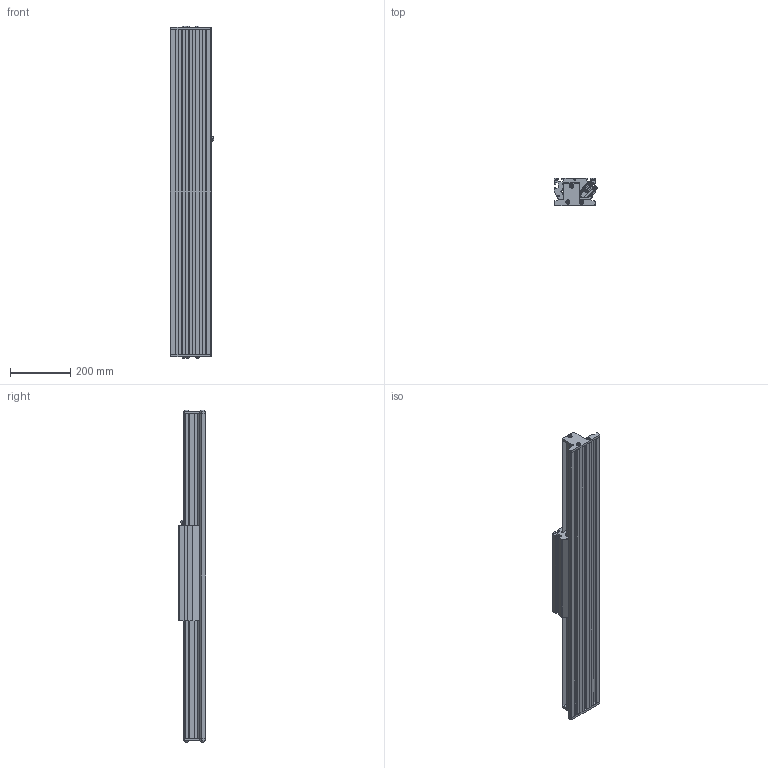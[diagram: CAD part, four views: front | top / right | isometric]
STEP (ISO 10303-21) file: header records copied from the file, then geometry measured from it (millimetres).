
FILE_DESCRIPTION (( 'STEP AP214' ), '1' );
FILE_NAME ('SINADRIVES Linear motor stage MLL20400XS-XX-1-0-ST-00-01092.STEP', '2015-07-06T10:56:49', ( 'Tecnico' ), ( '' ), 'SwSTEP 2.0', 'SolidWorks 2009', '' );
FILE_SCHEMA (( 'AUTOMOTIVE_DESIGN' ));
Length unit declared in the file: millimetre
Products named in the file (7): SINADRIVES PROFILE MLL2XXXX-1076; SINADRIVES CARRIAGE MLL20400XS-1; CARRIAGE MLL20400; Connector power+signal Y-tec 45; SINADRIVES ENDBLOCK MLL2; SINADRIVES ENDBLOCK MLL2-2; SINADRIVES Linear motor stage MLL20400XS-XX-1-0-ST-00-01092
Assembly tree (6 placements, depth 3):
  SINADRIVES Linear motor stage MLL20400XS-XX-1-0-ST-00-01092
    SINADRIVES PROFILE MLL2XXXX-1076
    SINADRIVES CARRIAGE MLL20400XS-1
      CARRIAGE MLL20400
      Connector power+signal Y-tec 45
    SINADRIVES ENDBLOCK MLL2-2
    SINADRIVES ENDBLOCK MLL2
Bounding box: 144.43 x 91 x 1100.8 mm (x, y, z)
Volume: 6085127 mm3; surface area: 1050473.8 mm2
Topology: 2 solids, 42 shells, 950 faces, 2640 edges, 1730 vertices
Faces by surface type: plane 445, cylinder 302, bspline 79, cone 70, torus 42, sphere 12
Entity records: 40587 total; most frequent: CARTESIAN_POINT 8656, ORIENTED_EDGE 5024, DIRECTION 4947, EDGE_CURVE 2622, AXIS2_PLACEMENT_3D 1781, VERTEX_POINT 1730, LINE 1385, VECTOR 1385
